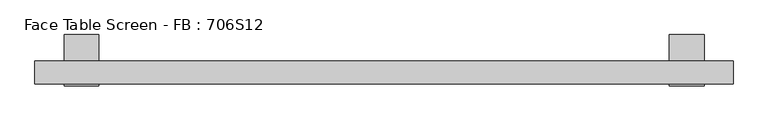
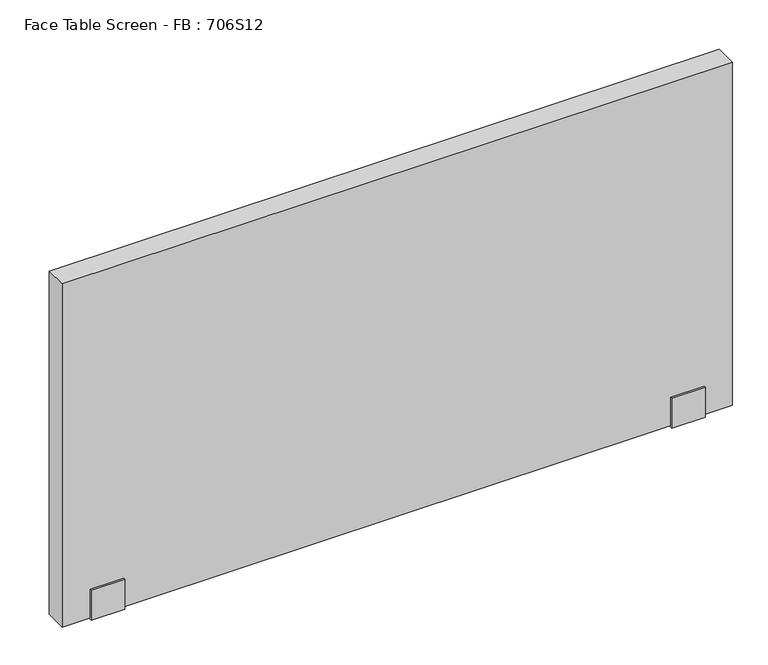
"""IFC4 building model written with IfcOpenShell, lengths in millimetres: furniture geometry, Face Table Screen - FB : 706S12."""

import ifcopenshell
import ifcopenshell.guid

model = None  # the IFC model being written
_history = None  # IfcOwnerHistory: only IFC2X3 demands one
_inside = {}  # id of a spatial element -> (the spatial element, [elements in it])
_under = {}  # id of a project, library or spatial element -> (it, [spatial elements below it])
_declared = {}  # id of a project -> (the project, [libraries it declares])
_typed = {}  # id of a type object -> (the type object, [elements of that type])
_made_of = {}  # id of a material, layer set ... -> (it, [elements and type objects made of it])


def new_model(schema):
    """Start an empty IFC model of exactly this schema.

    Asked for "IFC4X3", IfcOpenShell would pick the latest addendum, in which some entities
    have other attributes; the version numbers below select the first issue.
    IFC2X3 requires an IfcOwnerHistory on every rooted entity: one is made here for all.
    """
    global model, _history
    if schema == "IFC4X3":
        model = ifcopenshell.file(schema_version=(4, 3, 0, 0))
    else:
        model = ifcopenshell.file(schema=schema)
    _inside.clear()
    _under.clear()
    _declared.clear()
    _typed.clear()
    _made_of.clear()
    _history = None
    if model.schema == "IFC2X3":
        org = make("IfcOrganization", Name="unknown")
        user = make(
            "IfcPersonAndOrganization",
            ThePerson=make("IfcPerson", FamilyName="unknown"),
            TheOrganization=org,
        )
        app = make(
            "IfcApplication",
            ApplicationDeveloper=org,
            Version="unknown",
            ApplicationFullName="unknown",
            ApplicationIdentifier="unknown",
        )
        _history = make(
            "IfcOwnerHistory",
            OwningUser=user,
            OwningApplication=app,
            ChangeAction="ADDED",
            CreationDate=0,
        )
    return model


def make(cls, **values):
    """One entity of the class cls with the attributes given. An attribute that is None is left unset."""
    return model.create_entity(
        cls, **{name: value for name, value in values.items() if value is not None}
    )


def rooted(cls, **values):
    """An entity with a GlobalId (a new one), such as an element, a storey or a relation."""
    return make(cls, GlobalId=ifcopenshell.guid.new(), OwnerHistory=_history, **values)


def si_unit(unit_type, name, prefix=None):
    """IfcSIUnit, for example si_unit("LENGTHUNIT", "METRE", prefix="MILLI")."""
    return make("IfcSIUnit", UnitType=unit_type, Prefix=prefix, Name=name)


def assignment(units):
    """IfcUnitAssignment: the units of a project."""
    return None if units is None else make("IfcUnitAssignment", Units=units)


def point(xyz):
    """IfcCartesianPoint."""
    return None if xyz is None else make("IfcCartesianPoint", Coordinates=xyz)


def direction(xyz):
    """IfcDirection."""
    return None if xyz is None else make("IfcDirection", DirectionRatios=xyz)


def frame(location, z_axis=None, x_axis=None):
    """IfcAxis2Placement3D, a coordinate frame: its origin and axes. An axis left out is left unset."""
    return make(
        "IfcAxis2Placement3D",
        Location=point(location),
        Axis=direction(z_axis),
        RefDirection=direction(x_axis),
    )


def origin():
    """The frame at (0, 0, 0) with its axes left unset."""
    return frame((0.0, 0.0, 0.0))


def place(relative_to, where):
    """IfcLocalPlacement: puts the frame where relative to a parent placement (None: the world)."""
    return make(
        "IfcLocalPlacement", PlacementRelTo=relative_to, RelativePlacement=where
    )


def context(
    kind, dimensions, precision=None, world=None, true_north=None, identifier=None
):
    """IfcGeometricRepresentationContext, for example the 3D "Model" context."""
    return make(
        "IfcGeometricRepresentationContext",
        ContextIdentifier=identifier,
        ContextType=kind,
        CoordinateSpaceDimension=dimensions,
        Precision=precision,
        WorldCoordinateSystem=world,
        TrueNorth=true_north,
    )


def project(units=None, contexts=None):
    """IfcProject with its units and contexts."""
    return rooted(
        "IfcProject",
        Name="project",
        RepresentationContexts=contexts,
        UnitsInContext=assignment(units),
    )


def spatial(cls, under=None, at=None, **own):
    """A site, building, storey or space (cls), placed at a placement, below another one or the project."""
    s = rooted(cls, ObjectPlacement=at, **own)
    if under is not None:
        _under.setdefault(under.id(), (under, []))[1].append(s)
    return s


def polyline(points):
    """IfcPolyline through the points."""
    return make("IfcPolyline", Points=[point(p) for p in points])


def outline(outer, holes=None, kind="AREA"):
    """IfcArbitraryClosedProfileDef: a profile drawn as a closed curve; with holes, ...WithVoids."""
    if holes is None:
        return make("IfcArbitraryClosedProfileDef", ProfileType=kind, OuterCurve=outer)
    return make(
        "IfcArbitraryProfileDefWithVoids",
        ProfileType=kind,
        OuterCurve=outer,
        InnerCurves=holes,
    )


def extrude(swept, where, along, depth):
    """IfcExtrudedAreaSolid: the profile swept, set in the frame where, extruded along a direction by depth."""
    return make(
        "IfcExtrudedAreaSolid",
        SweptArea=swept,
        Position=where,
        ExtrudedDirection=direction(along),
        Depth=depth,
    )


def shape(context_of_items, identifier, shape_type, items):
    """IfcShapeRepresentation: the items that make up one representation, for example the "Body"."""
    return make(
        "IfcShapeRepresentation",
        ContextOfItems=context_of_items,
        RepresentationIdentifier=identifier,
        RepresentationType=shape_type,
        Items=items,
    )


def source(mapping_origin, context_of_items, identifier, shape_type, items):
    """IfcRepresentationMap: a shape defined once, which mapped items show again and again."""
    return make(
        "IfcRepresentationMap",
        MappingOrigin=mapping_origin,
        MappedRepresentation=shape(context_of_items, identifier, shape_type, items),
    )


def transform(
    local_origin,
    x_axis=None,
    y_axis=None,
    z_axis=None,
    scale=None,
    scale2=None,
    scale3=None,
    uniform=True,
):
    """IfcCartesianTransformationOperator3D, or its non-uniform kind. x_axis, y_axis, z_axis: its Axis1, 2, 3."""
    if uniform:
        return make(
            "IfcCartesianTransformationOperator3D",
            Axis1=direction(x_axis),
            Axis2=direction(y_axis),
            LocalOrigin=point(local_origin),
            Scale=scale,
            Axis3=direction(z_axis),
        )
    return make(
        "IfcCartesianTransformationOperator3DnonUniform",
        Axis1=direction(x_axis),
        Axis2=direction(y_axis),
        LocalOrigin=point(local_origin),
        Scale=scale,
        Axis3=direction(z_axis),
        Scale2=scale2,
        Scale3=scale3,
    )


def mapped(mapping_source, mapping_target):
    """IfcMappedItem: shows the shape of a source again, moved by a transform."""
    return make(
        "IfcMappedItem", MappingSource=mapping_source, MappingTarget=mapping_target
    )


def made_of(thing, what):
    """Note that an element or type object is made of a material, layer set ...; save() writes the relation."""
    if what is not None:
        _made_of.setdefault(what.id(), (what, []))[1].append(thing)
    return thing


def element(
    cls,
    number,
    at=None,
    inside=None,
    cuts=None,
    type_object=None,
    material=None,
    context=None,
    identifier="Body",
    shape_type=None,
    held_by="IfcProductDefinitionShape",
    body=None,
    shapes=None,
    **own,
):
    """One element of the class cls, such as IfcWall. Its Tag is "e" and its number.

    at: its placement. inside: the storey or other place that contains it. cuts: it is an
    opening in that element (IfcRelVoidsElement). A single representation is given by context,
    identifier, shape_type and body (its items); several are given by shapes. held_by: the class
    of the entity that holds the representations. save() writes the other relations.
    """
    e = rooted(cls, Tag="e%d" % number, ObjectPlacement=at, **own)
    if body is not None:
        shapes = [shape(context, identifier, shape_type, body)]
    if shapes is not None:
        e.Representation = make(held_by, Representations=shapes)
    if inside is not None:
        _inside.setdefault(inside.id(), (inside, []))[1].append(e)
    if cuts is not None:
        rooted(
            "IfcRelVoidsElement", RelatingBuildingElement=cuts, RelatedOpeningElement=e
        )
    if type_object is not None:
        _typed.setdefault(type_object.id(), (type_object, []))[1].append(e)
    return made_of(e, material)


def aggregate(whole, parts):
    """IfcRelAggregates: a whole, such as a stair, and the parts it consists of."""
    return rooted("IfcRelAggregates", RelatingObject=whole, RelatedObjects=parts)


def save(model, path):
    """Write the relations noted so far, then the file.

    IfcRelAggregates (storeys below a building ...), IfcRelContainedInSpatialStructure (elements
    in a storey), IfcRelDefinesByType, IfcRelAssociatesMaterial and IfcRelDeclares: one each for
    every whole, place, type object, material and project.
    """
    for whole, parts in _under.values():
        aggregate(whole, parts)
    for where, things in _inside.values():
        rooted(
            "IfcRelContainedInSpatialStructure",
            RelatedElements=things,
            RelatingStructure=where,
        )
    for kind, things in _typed.values():
        rooted("IfcRelDefinesByType", RelatedObjects=things, RelatingType=kind)
    for what, things in _made_of.values():
        rooted("IfcRelAssociatesMaterial", RelatedObjects=things, RelatingMaterial=what)
    for by, libraries in _declared.values():
        rooted("IfcRelDeclares", RelatingContext=by, RelatedDefinitions=libraries)
    model.write(path)


def face_table_screen_fb_706s12_b1512c8a(model_context):
    return source(origin(), model_context, "Body", "SweptSolid", [
        extrude(outline(polyline([(-42.9999947, -256.0), (-42.9999997, -199.0433898), (-40.0, -199.0433898), (-40.0, -253.0), (0.0, -253.0), (0.0, -22.0), (45.0, -22.0), (45.0, -25.0433898), (3.0000062, -25.0433898), (2.9999947, -256.0), (-42.9999947, -256.0)])), frame((509.9863751, 0.0, 0.0), z_axis=(1.0, 0.0, 0.0), x_axis=(0.0, 1.0, 0.0)), (0.0, 0.0, 1.0), 60.0),
        extrude(outline(polyline([(-42.9999947, -256.0), (-42.9999997, -199.0433898), (-40.0, -199.0433898), (-40.0, -253.0), (0.0, -253.0), (0.0, -22.0), (45.0, -22.0), (45.0, -25.0433898), (3.0000062, -25.0433898), (2.9999947, -256.0), (-42.9999947, -256.0)])), frame((-530.0136249, 0.0, 0.0), z_axis=(1.0, 0.0, 0.0), x_axis=(0.0, 1.0, 0.0)), (0.0, 0.0, 1.0), 60.0),
        extrude(outline(polyline([(619.9863751, -40.0), (-580.0136249, -40.0), (-580.0136249, 0.0), (619.9863751, 0.0), (619.9863751, -40.0)])), frame((0.0, 0.0, -253.0), z_axis=(0.0, 0.0, 1.0), x_axis=(1.0, 0.0, 0.0)), (0.0, 0.0, 1.0), 650.0),
    ])


if __name__ == "__main__":
    model = new_model("IFC4")
    model_context = context("Model", 3, world=origin())
    ifc_project = project(units=[si_unit("LENGTHUNIT", "METRE", prefix="MILLI")], contexts=[model_context])
    site = spatial("IfcSite", under=ifc_project)
    building = spatial("IfcBuilding", under=site)
    placement = place(None, origin())
    face_table_screen_fb_706s12_shape = face_table_screen_fb_706s12_b1512c8a(model_context)
    element("IfcFurniture", 1, ObjectType="Face Table Screen - FB : 706S12", at=placement, inside=building, context=model_context, shape_type="MappedRepresentation", body=[
        mapped(face_table_screen_fb_706s12_shape, transform((0.0, 0.0, 0.0), x_axis=(1.0, 0.0, 0.0), y_axis=(0.0, 1.0, 0.0), z_axis=(0.0, 0.0, 1.0))),
    ])
    save(model, "model.ifc")
